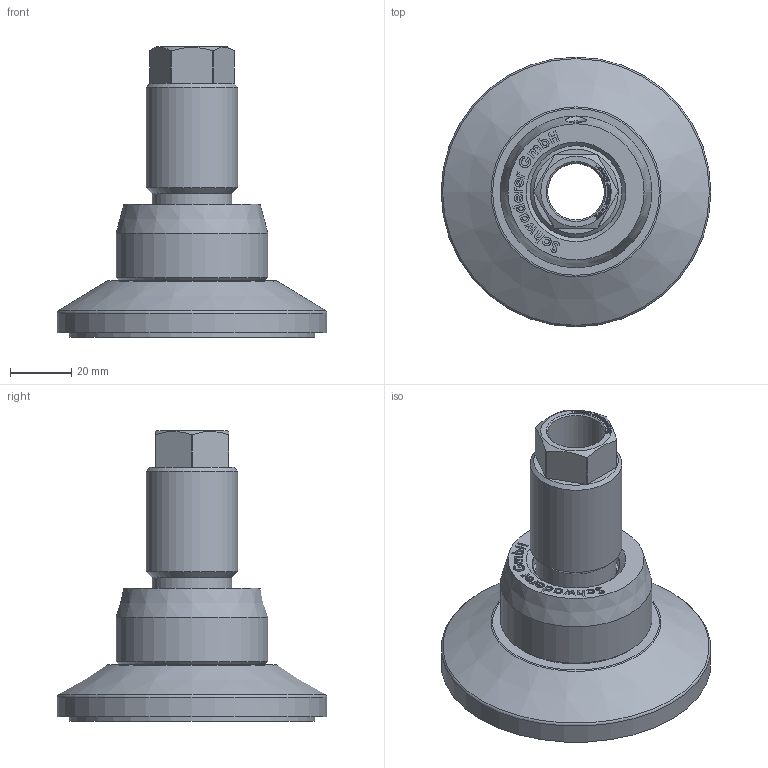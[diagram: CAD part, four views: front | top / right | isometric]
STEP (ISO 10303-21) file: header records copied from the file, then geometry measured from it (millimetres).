
FILE_DESCRIPTION(/* description */ ('JCM 80C - M30 - S6'),/* implementation_level */ '2;1');
FILE_NAME(/* name */ 'P:\CAD ab 2015\STP - Internetseite\JCMHD\JCMHD 80C - S - HSD70.stp',/* time_stamp */ '2021-09-30T15:59:42+02:00',/* author */ ('T. Rey'),/* organization */ ('Schwaderer GmbH Robert-Bosch-Str. 10 71563 Affalterbach'),/* preprocessor_version */ 'ST-DEVELOPER v18.1',/* originating_system */ 'Autodesk Inventor LT',/* authorisation */ '');
FILE_SCHEMA (('CONFIG_CONTROL_DESIGN'));
Length unit declared in the file: millimetre
Products named in the file (1): JCMHD 80C - S - HSD110
Bounding box: 88 x 88 x 94.9 mm (x, y, z)
Volume: 139207.8 mm3; surface area: 47729.6 mm2
Topology: 4 solids, 4 shells, 479 faces, 1300 edges, 869 vertices
Faces by surface type: plane 243, bspline 192, cylinder 23, cone 17, torus 3, sphere 1
Full cylindrical faces by diameter (mm): 5 x1, 18.5 x2, 25 x1, 26 x1, 26.5 x1, 27.5 x1, 28.5 x2, 30 x2, 31 x1, 49.5 x1, 80 x2, 88 x1
Entity records: 16586 total; most frequent: CARTESIAN_POINT 5618, ORIENTED_EDGE 2600, DIRECTION 1593, EDGE_CURVE 1300, VERTEX_POINT 869, LINE 781, VECTOR 781, EDGE_LOOP 529
